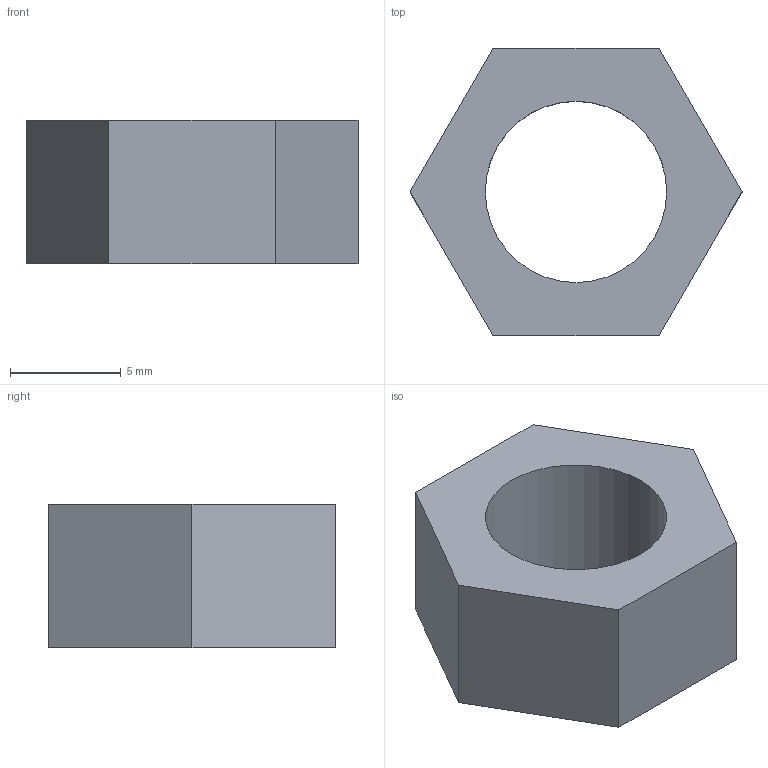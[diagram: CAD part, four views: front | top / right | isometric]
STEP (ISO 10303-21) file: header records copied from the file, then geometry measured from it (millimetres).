
FILE_DESCRIPTION(('FreeCAD Model'),'2;1');
FILE_NAME('Open CASCADE Shape Model','2026-10-30T14:44:59',('FreeCAD'),( 'FreeCAD'),'Open CASCADE STEP processor 7.8','FreeCAD','Unknown');
FILE_SCHEMA(('AUTOMOTIVE_DESIGN { 1 0 10303 214 1 1 1 1 }'));
Length unit declared in the file: millimetre
Products named in the file (1): Open CASCADE STEP translator 7.8 2
Bounding box: 15.01 x 13 x 6.5 mm (x, y, z)
Volume: 608.1 mm3; surface area: 647.3 mm2
Topology: 1 solids, 1 shells, 9 faces, 21 edges, 14 vertices
Faces by surface type: plane 8, cylinder 1
Full cylindrical faces by diameter (mm): 8.2 x1
Entity records: 271 total; most frequent: CARTESIAN_POINT 45, DIRECTION 43, ORIENTED_EDGE 42, EDGE_CURVE 21, LINE 19, VECTOR 19, VERTEX_POINT 14, AXIS2_PLACEMENT_3D 12
